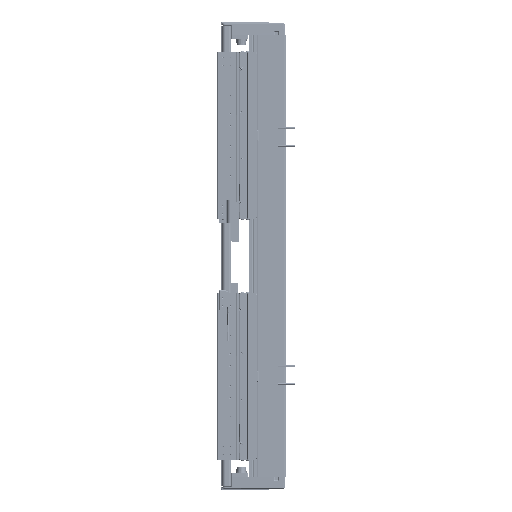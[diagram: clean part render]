
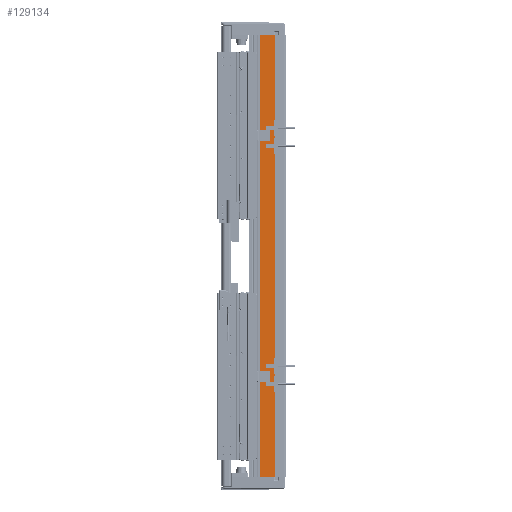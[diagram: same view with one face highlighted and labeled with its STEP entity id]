
A CAD part, left-side view. The second image highlights one B-rep face of the part: STEP entity #129134.
In plain terms, the highlighted planar face has unit normal (-1, 0, 0).
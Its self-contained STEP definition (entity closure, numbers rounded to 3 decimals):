
#5083 = AXIS2_PLACEMENT_3D ( 'NONE', #141312, #120770, #65066 ) ;
#7194 = PLANE ( 'NONE',  #5083 ) ;
#8367 = EDGE_LOOP ( 'NONE', ( #64208, #88306, #91757, #28636 ) ) ;
#9614 = VERTEX_POINT ( 'NONE', #53154 ) ;
#10241 = VECTOR ( 'NONE', #120353, 1000. ) ;
#13454 = VECTOR ( 'NONE', #122865, 1000. ) ;
#15202 = CARTESIAN_POINT ( 'NONE',  ( -97.5, 36.95, -330. ) ) ;
#21251 = EDGE_CURVE ( 'NONE', #141925, #44335, #30950, .T. ) ;
#28636 = ORIENTED_EDGE ( 'NONE', *, *, #21251, .T. ) ;
#30950 = LINE ( 'NONE', #75648, #10241 ) ;
#32327 = CARTESIAN_POINT ( 'NONE',  ( -97.5, 36.95, 330. ) ) ;
#38802 = EDGE_CURVE ( 'NONE', #141925, #128109, #42614, .T. ) ;
#42614 = LINE ( 'NONE', #32327, #90947 ) ;
#43105 = FACE_OUTER_BOUND ( 'NONE', #8367, .T. ) ;
#44335 = VERTEX_POINT ( 'NONE', #138976 ) ;
#53154 = CARTESIAN_POINT ( 'NONE',  ( -97.5, 14.45, -330. ) ) ;
#53566 = DIRECTION ( 'NONE',  ( 0., -1., 0. ) ) ;
#64208 = ORIENTED_EDGE ( 'NONE', *, *, #69231, .T. ) ;
#65066 = DIRECTION ( 'NONE',  ( 0., 1., 0. ) ) ;
#69231 = EDGE_CURVE ( 'NONE', #44335, #9614, #116335, .T. ) ;
#69340 = LINE ( 'NONE', #114042, #13454 ) ;
#75648 = CARTESIAN_POINT ( 'NONE',  ( -97.5, 36.95, 330. ) ) ;
#88306 = ORIENTED_EDGE ( 'NONE', *, *, #122962, .F. ) ;
#90947 = VECTOR ( 'NONE', #53566, 1000. ) ;
#91757 = ORIENTED_EDGE ( 'NONE', *, *, #38802, .F. ) ;
#96505 = DIRECTION ( 'NONE',  ( 0., -1., 0. ) ) ;
#106001 = CARTESIAN_POINT ( 'NONE',  ( -97.5, 14.45, 330. ) ) ;
#114042 = CARTESIAN_POINT ( 'NONE',  ( -97.5, 14.45, 330. ) ) ;
#116335 = LINE ( 'NONE', #15202, #139950 ) ;
#120353 = DIRECTION ( 'NONE',  ( 0., 0., -1. ) ) ;
#120770 = DIRECTION ( 'NONE',  ( 1., 0., 0. ) ) ;
#122865 = DIRECTION ( 'NONE',  ( 0., 0., -1. ) ) ;
#122962 = EDGE_CURVE ( 'NONE', #128109, #9614, #69340, .T. ) ;
#123198 = CARTESIAN_POINT ( 'NONE',  ( -97.5, 36.95, 330. ) ) ;
#128109 = VERTEX_POINT ( 'NONE', #106001 ) ;
#129134 = ADVANCED_FACE ( 'NONE', ( #43105 ), #7194, .F. ) ;
#138976 = CARTESIAN_POINT ( 'NONE',  ( -97.5, 36.95, -330. ) ) ;
#139950 = VECTOR ( 'NONE', #96505, 1000. ) ;
#141312 = CARTESIAN_POINT ( 'NONE',  ( -97.5, 36.95, 330. ) ) ;
#141925 = VERTEX_POINT ( 'NONE', #123198 ) ;
